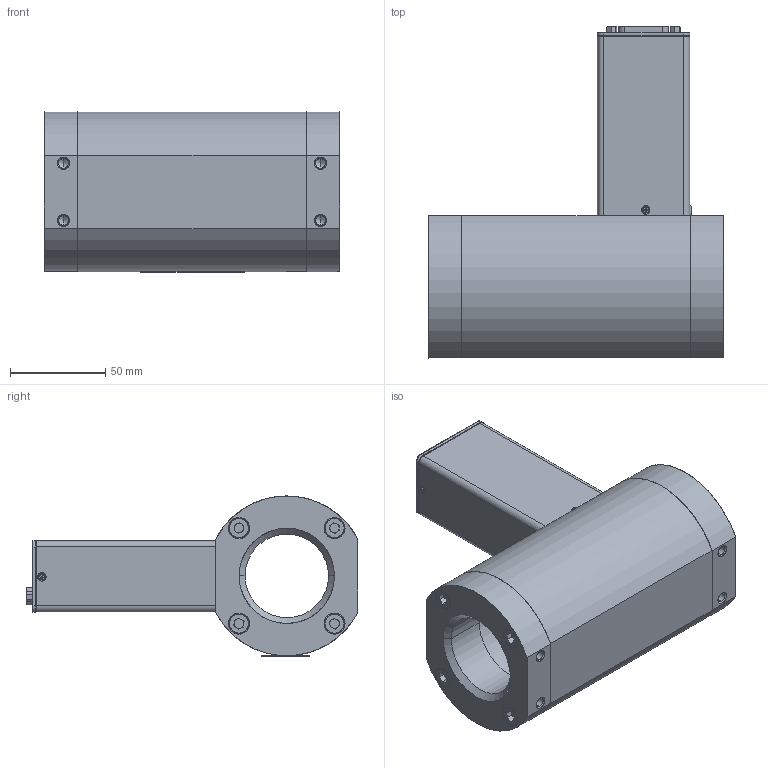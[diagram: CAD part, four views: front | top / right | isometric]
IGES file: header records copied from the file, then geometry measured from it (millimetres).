
Start section: SolidWorks IGES file using analytic representation for surfaces
Global section: file name: G:\Engineering\CAD MODELS FOR SALES\CAD MODEL STORAGE\SLA\SLA5863\CUSTOMER FILES\IGES\SLA5863-S-2J-0-C-REVB.IGS; native system: SolidWorks 2023; preprocessor: SolidWorks 2023; author: CFehr; date: 250505.111940; units: inch
Bounding box: 155 x 174.37 x 84.16 mm (x, y, z)
Surface area: 149039.6 mm2 (no closed solid volume)
Topology: 0 solids, 0 shells, 1399 faces, 15932 edges, 15888 vertices
Faces by surface type: bspline 722, revolution 677
